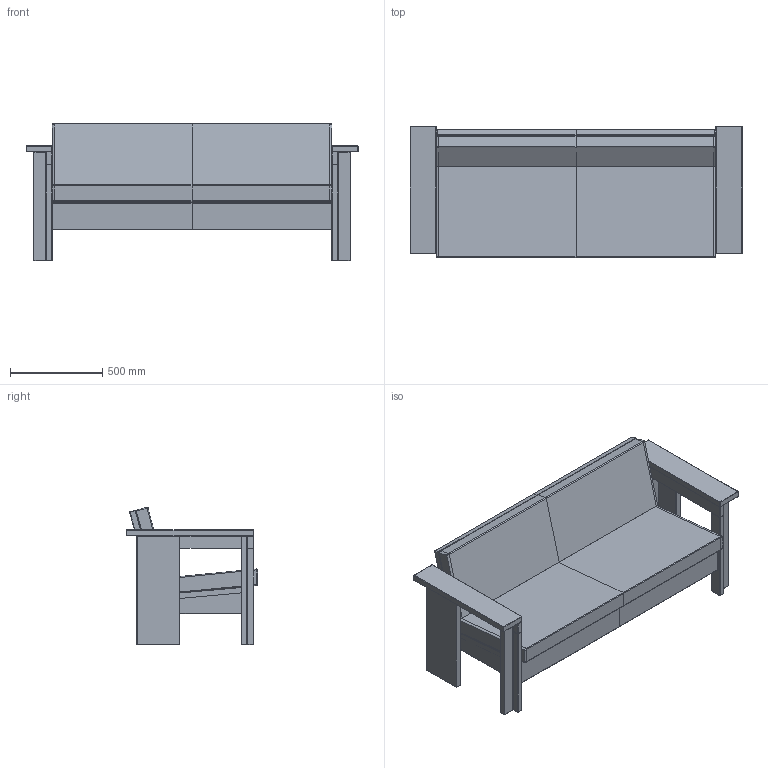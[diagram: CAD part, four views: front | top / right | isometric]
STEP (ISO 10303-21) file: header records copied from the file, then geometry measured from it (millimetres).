
FILE_DESCRIPTION(/* description */ (''),/* implementation_level */ '2;1');
FILE_NAME(/* name */ 'FRAMA_Symmetry-Couch-3D',/* time_stamp */ '2025-10-28T13:29:53+01:00',/* author */ (''),/* organization */ (''),/* preprocessor_version */ 'ST-DEVELOPER v16.5',/* originating_system */ 'Rhino 7.38',/* authorisation */ '');
FILE_SCHEMA (('CONFIG_CONTROL_DESIGN'));
Length unit declared in the file: millimetre
Products named in the file (1): Document
Bounding box: 1801.26 x 711.07 x 745.55 mm (x, y, z)
Volume: 298198301.9 mm3; surface area: 12114056.1 mm2
Topology: 13 solids, 19 shells, 510 faces, 1014 edges, 532 vertices
Faces by surface type: bspline 198, cylinder 172, plane 140
Entity records: 17302 total; most frequent: CARTESIAN_POINT 10510, ORIENTED_EDGE 2006, EDGE_CURVE 1014, B_SPLINE_CURVE_WITH_KNOTS 637, VERTEX_POINT 532, ADVANCED_FACE 510, FACE_OUTER_BOUND 510, EDGE_LOOP 510
